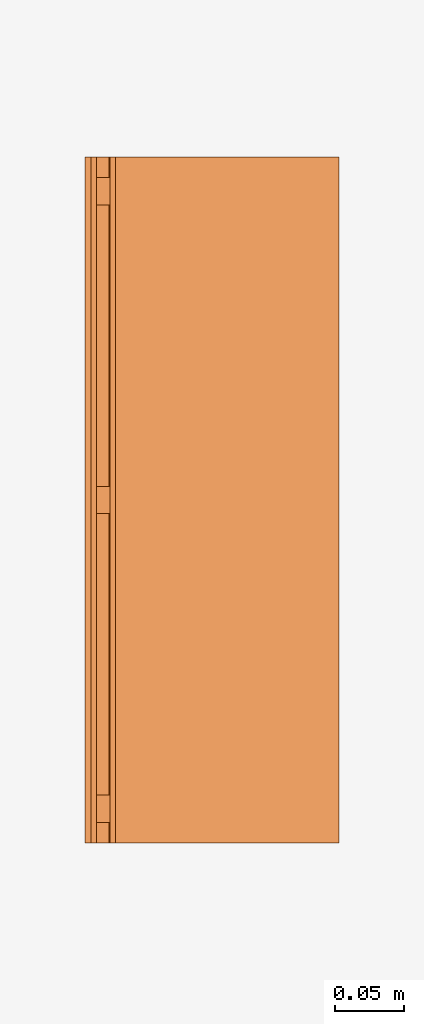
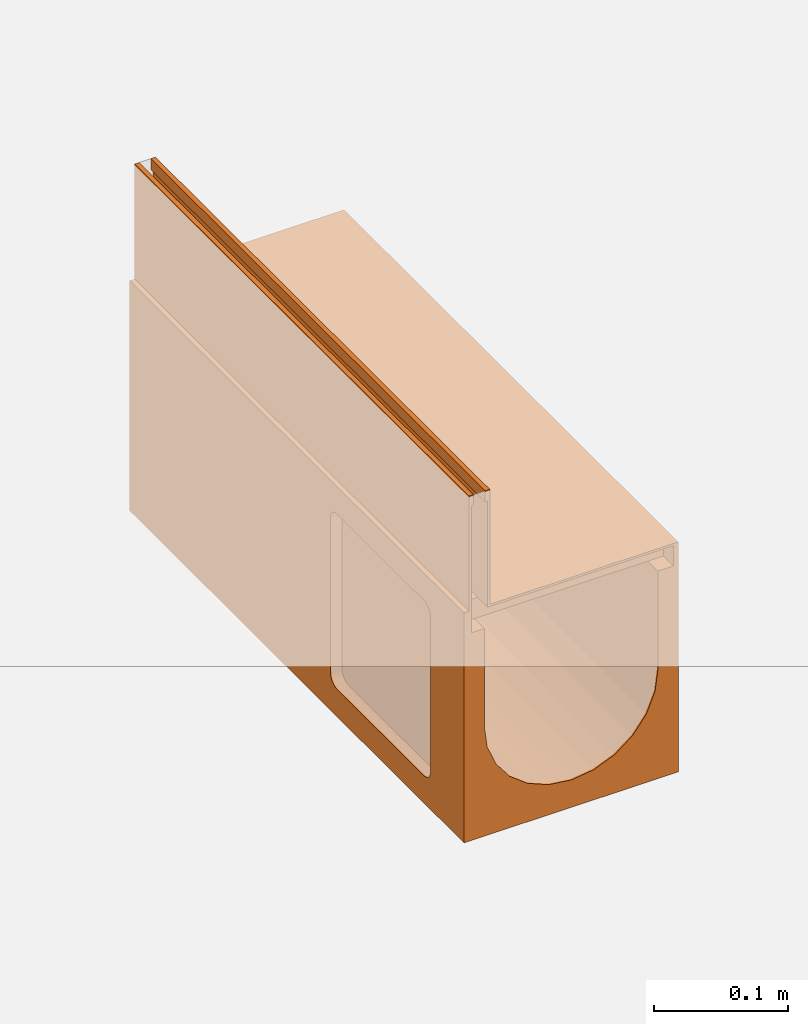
# One storey, part 2 of 2: 1 proxy.
"""IFC2X3 building model written with IfcOpenShell, lengths in millimetres."""

from ifc_helpers import new_model, entity, si_unit, converted_unit, direction, frame, origin, place, context, subcontext, project, spatial, faceted_brep, source, transform, mapped, material, material_list, element, save


model = new_model("IFC2X3")

# Units and contexts
model_context = context("Model", 3, precision=1e-06, world=origin(), true_north=direction((2.0, 6.12303176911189e-17, 1.0)))
context_of_model = context(None, 3, precision=1e-06, world=origin(), true_north=direction((2.0, 6.12303176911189e-17, 1.0)))
body_context = subcontext(model_context, "Body", "Model", "MODEL_VIEW")
ifc_project = project(units=[si_unit("LENGTHUNIT", "METRE", prefix="MILLI"), si_unit("AREAUNIT", "SQUARE_METRE", prefix="MILLI"), si_unit("VOLUMEUNIT", "CUBIC_METRE", prefix="MILLI"), converted_unit("PLANEANGLEUNIT", "DEGREE", entity("IfcRatioMeasure", 0.0174532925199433), si_unit("PLANEANGLEUNIT", "RADIAN"), dimensions=[0, 0, 0, 0, 0, 0, 0]), si_unit("TIMEUNIT", "SECOND")], contexts=[model_context, context_of_model])

# Site, building, storey
site_placement = place(None, origin())
site = spatial("IfcSite", under=ifc_project, at=site_placement, Name="Default", CompositionType="ELEMENT")
building_placement = place(site_placement, origin())
building = spatial("IfcBuilding", under=site, at=building_placement, CompositionType="ELEMENT")
storey_placement = place(building_placement, origin())
storey = spatial("IfcBuildingStorey", under=building, at=storey_placement, Name="Level 1", CompositionType="ELEMENT", Elevation=0.0)

# Proxy
ifc_material_1 = material(Name="Stainless Steel (F)")
ifc_material_2 = material(Name="Vienite® Synthetic Resin Concrete")
ifc_material_list = material_list([ifc_material_1, ifc_material_2])
shared_shape = source(origin(), body_context, "Body", "Brep", [
    faceted_brep([(88.2499999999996, 240.0, -107.0), (88.2499999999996, 242.0, -109.0), (88.2499999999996, 258.0, -109.0), (88.2499999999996, 260.0, -107.0), (88.2499999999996, 242.0, -123.499999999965), (88.2499999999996, 240.0, -125.499999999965), (88.2499999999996, 258.0, -123.499999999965), (88.2499999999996, 260.0, -125.499999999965), (-86.2500000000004, 240.0, -125.499999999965), (-86.2500000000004, 242.0, -123.499999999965), (-86.2500000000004, 258.0, -123.499999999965), (-86.2500000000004, 260.0, -125.499999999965), (-86.2500000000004, 242.0, -109.0), (-86.2500000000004, 240.0, -107.0), (-86.2500000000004, 258.0, -109.0), (-86.2500000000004, 260.0, -107.0)], [[[0, 1, 2, 3]], [[4, 1, 0, 5]], [[3, 2, 6, 7]], [[6, 4, 5, 7]], [[8, 9, 10, 11]], [[12, 9, 8, 13]], [[11, 10, 14, 15]], [[14, 12, 13, 15]], [[5, 0, 13, 8]], [[7, 5, 8, 11]], [[15, 3, 7, 11]], [[0, 3, 15, 13]], [[1, 4, 9, 12]], [[14, 2, 1, 12]], [[6, 2, 14, 10]], [[9, 4, 6, 10]]]),
    faceted_brep([(88.2500000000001, 465.0, -107.0), (88.2500000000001, 467.0, -109.0), (88.2500000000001, 483.0, -109.0), (88.2500000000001, 485.0, -107.0), (88.2500000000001, 467.0, -123.499999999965), (88.2500000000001, 465.0, -125.499999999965), (88.2500000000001, 483.0, -123.499999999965), (88.2500000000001, 485.0, -125.499999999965), (-86.2499999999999, 465.0, -125.499999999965), (-86.2499999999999, 467.0, -123.499999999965), (-86.2499999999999, 483.0, -123.499999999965), (-86.2499999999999, 485.0, -125.499999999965), (-86.2499999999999, 467.0, -109.0), (-86.2499999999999, 465.0, -107.0), (-86.2499999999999, 483.0, -109.0), (-86.2499999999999, 485.0, -107.0)], [[[0, 1, 2, 3]], [[4, 1, 0, 5]], [[3, 2, 6, 7]], [[6, 4, 5, 7]], [[8, 9, 10, 11]], [[12, 9, 8, 13]], [[11, 10, 14, 15]], [[14, 12, 13, 15]], [[5, 0, 13, 8]], [[7, 5, 8, 11]], [[3, 7, 11, 15]], [[0, 3, 15, 13]], [[1, 4, 9, 12]], [[14, 2, 1, 12]], [[6, 2, 14, 10]], [[9, 4, 6, 10]]]),
    faceted_brep([(-72.2500000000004, 0.0, -10.0), (-72.2500000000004, 0.0, -107.0), (-70.2500000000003, 0.0, -105.0), (-70.2500000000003, 0.0, 0.0), (-74.2500000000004, 0.0, 0.0), (-74.2500000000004, 0.0, -10.0), (88.2499999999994, 0.0, -107.0), (88.2499999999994, 0.0, -105.0), (-70.2500000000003, 500.0, -105.0), (88.2499999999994, 500.0, -105.0), (88.2499999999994, 500.0, -107.0), (-72.2500000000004, 500.0, -107.0), (-72.2500000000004, 500.0, -10.0), (-70.2500000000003, 500.0, 0.0), (-74.2500000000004, 500.0, -10.0), (-74.2500000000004, 500.0, 0.0)], [[[0, 1, 2, 3]], [[4, 5, 0, 3]], [[6, 7, 2, 1]], [[8, 9, 10, 11]], [[12, 13, 8, 11]], [[12, 14, 15, 13]], [[12, 0, 5, 14]], [[1, 0, 12, 11]], [[6, 1, 11, 10]], [[9, 7, 6, 10]], [[8, 2, 7, 9]], [[3, 2, 8, 13]], [[4, 3, 13, 15]], [[5, 4, 15, 14]]]),
    faceted_brep([(-84.2500000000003, 500.0, 0.0), (-84.2500000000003, 500.0, -10.0), (-86.2500000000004, 500.0, -10.0), (-88.2500000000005, 500.0, 0.0), (-88.2500000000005, 500.0, -125.499999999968), (-86.2500000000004, 500.0, -125.499999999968), (-86.2500000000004, 0.0, -10.0), (-88.2500000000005, 0.0, 0.0), (-88.2500000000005, 0.0, -125.499999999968), (-86.2500000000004, 0.0, -125.499999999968), (-84.2500000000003, 0.0, 0.0), (-84.2500000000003, 0.0, -10.0)], [[[0, 1, 2, 3]], [[4, 3, 2, 5]], [[6, 7, 8, 9]], [[10, 7, 6, 11]], [[5, 9, 8, 4]], [[6, 9, 5, 2]], [[1, 11, 6, 2]], [[10, 11, 1, 0]], [[7, 10, 0, 3]], [[4, 8, 7, 3]]]),
    faceted_brep([(88.2499999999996, 15.0, -107.0), (88.2499999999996, 17.0, -109.0), (88.2499999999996, 33.0, -109.0), (88.2499999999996, 35.0, -107.0), (88.2499999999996, 17.0, -123.499999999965), (88.2499999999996, 15.0, -125.499999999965), (88.2499999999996, 33.0, -123.499999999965), (88.2499999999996, 35.0, -125.499999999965), (-86.2500000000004, 15.0, -125.499999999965), (-86.2500000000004, 17.0, -123.499999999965), (-86.2500000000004, 33.0, -123.499999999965), (-86.2500000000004, 35.0, -125.499999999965), (-86.2500000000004, 17.0, -109.0), (-86.2500000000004, 15.0, -107.0), (-86.2500000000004, 33.0, -109.0), (-86.2500000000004, 35.0, -107.0)], [[[0, 1, 2, 3]], [[4, 1, 0, 5]], [[3, 2, 6, 7]], [[6, 4, 5, 7]], [[8, 9, 10, 11]], [[12, 9, 8, 13]], [[11, 10, 14, 15]], [[14, 12, 13, 15]], [[5, 0, 13, 8]], [[7, 5, 8, 11]], [[3, 7, 11, 15]], [[0, 3, 15, 13]], [[12, 1, 4, 9]], [[14, 2, 1, 12]], [[10, 6, 2, 14]], [[9, 4, 6, 10]]]),
    faceted_brep([(82.5000000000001, 55.0, -288.660254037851), (82.5000000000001, 57.411809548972, -289.659258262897), (82.5000000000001, 60.0, -290.0), (82.5000000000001, 51.3397459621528, -285.0), (82.5000000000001, 50.0, -280.0), (82.5000000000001, 50.3407417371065, -282.588190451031), (82.5000000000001, 52.9289321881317, -287.071067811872), (82.5000000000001, 200.0, -280.0), (82.5000000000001, 190.0, -290.0), (82.5000000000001, 192.588190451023, -289.659258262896), (82.5000000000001, 195.0, -288.66025403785), (82.5000000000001, 197.071067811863, -287.071067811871), (82.5000000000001, 198.660254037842, -285.0), (82.5000000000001, 199.659258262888, -282.588190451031), (82.5000000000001, 200.0, -140.0), (82.5000000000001, 50.0, -140.0), (82.5000000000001, 50.3407417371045, -137.411809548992), (82.5000000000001, 60.0, -130.0), (82.5000000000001, 51.3397459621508, -135.0), (82.5000000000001, 55.0, -131.339745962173), (82.5000000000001, 52.9289321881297, -132.928932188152), (82.5000000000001, 57.4118095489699, -130.340741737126), (82.5000000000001, 190.0, -130.0), (82.5000000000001, 199.65925826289, -137.411809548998), (82.5000000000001, 198.660254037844, -135.0), (82.5000000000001, 195.0, -131.339745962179), (82.5000000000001, 192.588190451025, -130.340741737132), (82.5000000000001, 197.071067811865, -132.928932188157), (92.5, 50.0, -140.0), (92.5000000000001, 50.0, -280.0), (92.5, 190.0, -130.0), (92.5000000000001, 60.0, -130.0), (92.4999999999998, 200.0, -280.0), (92.5000000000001, 200.0, -140.0), (92.4999999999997, 60.0, -290.0), (92.5000000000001, 190.0, -290.0), (88.25, 500.0, -125.500000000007), (88.2500000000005, 500.0, -105.0), (92.5, 500.0, -105.0), (92.4999999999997, 500.0, -315.0), (75.0, 500.0, -215.0), (75.0, 500.0, -125.500000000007), (72.44443697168, 500.0, -234.411428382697), (-92.5, 500.0, -105.0), (-88.25, 500.0, -105.0), (-88.25, 500.0, -125.500000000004), (-92.5, 500.0, -315.0), (-75.0, 500.0, -125.500000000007), (-75.0, 500.0, -215.0), (53.033008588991, 500.0, -268.033008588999), (64.9519052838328, 500.0, -252.500000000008), (37.5, 500.0, -279.951905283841), (0.0, 500.0, -290.0), (19.4114283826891, 500.0, -287.444436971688), (-64.9519052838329, 500.0, -252.500000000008), (-53.033008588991, 500.0, -268.033008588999), (-72.4444369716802, 500.0, -234.411428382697), (-37.4999999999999, 500.0, -279.951905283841), (-19.4114283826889, 500.0, -287.444436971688), (92.4999999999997, 0.0, -315.0), (19.4114283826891, 0.0, -287.444436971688), (0.0, 0.0, -290.0), (37.5, 0.0, -279.951905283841), (53.033008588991, 0.0, -268.033008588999), (64.9519052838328, 0.0, -252.500000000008), (72.44443697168, 0.0, -234.411428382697), (-19.4114283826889, 0.0, -287.444436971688), (-92.5, 0.0, -315.0), (-37.4999999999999, 0.0, -279.951905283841), (-53.033008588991, 0.0, -268.033008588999), (-64.9519052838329, 0.0, -252.500000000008), (-72.4444369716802, 0.0, -234.411428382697), (75.0, 0.0, -215.0), (88.25, 0.0, -125.500000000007), (75.0, 0.0, -125.500000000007), (92.5, 0.0, -105.0), (88.2500000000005, 0.0, -105.0), (-75.0, 0.0, -215.0), (-75.0, 0.0, -125.500000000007), (-88.25, 0.0, -125.500000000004), (-88.25, 0.0, -105.0), (-92.5, 0.0, -105.0), (-92.5, 51.339745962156, -135.0), (-92.5, 50.3407417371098, -137.411809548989), (-92.5, 52.928932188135, -132.928932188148), (-92.5, 50.0, -140.0), (-92.5, 50.0, -280.0), (-92.5, 60.0, -130.0), (-92.5, 57.4118095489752, -130.340741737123), (-92.5, 55.0, -131.339745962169), (-92.5, 190.0, -130.0), (-92.5, 50.3407417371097, -282.588190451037), (-92.5, 51.3397459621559, -285.0), (-92.5, 52.9289321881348, -287.071067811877), (-92.5, 55.0, -288.660254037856), (-92.5, 57.4118095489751, -289.659258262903), (-92.5, 60.0, -290.0), (-92.5, 190.0, -290.0), (-92.5, 192.588190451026, -130.340741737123), (-92.5, 197.071067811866, -132.928932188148), (-92.5, 195.0, -131.339745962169), (-92.5, 198.660254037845, -135.0), (-92.5, 199.659258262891, -137.411809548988), (-92.5, 200.0, -140.0), (-92.5, 195.0, -288.660254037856), (-92.5, 197.071067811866, -287.071067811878), (-92.5, 192.588190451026, -289.659258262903), (-92.5, 199.659258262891, -282.588190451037), (-92.5, 200.0, -280.0), (-92.5, 198.660254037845, -285.0), (-20.7055236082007, 47.7259338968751, -315.0), (0.0, 45.0, -315.0), (-40.0, 55.7179676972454, -315.0), (-77.2740661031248, 104.294476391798, -315.0), (-69.2820323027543, 85.0, -315.0), (-56.5685424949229, 68.4314575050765, -315.0), (-80.0, 125.0, -315.0), (20.7055236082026, 47.7259338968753, -315.0), (40.0, 55.7179676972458, -315.0), (56.5685424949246, 68.4314575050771, -315.0), (69.2820323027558, 85.0, -315.0), (77.2740661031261, 104.294476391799, -315.0), (80.0, 125.0, -315.0), (-77.2740661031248, 145.705523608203, -315.0), (-69.2820323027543, 165.0, -315.0), (-56.5685424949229, 181.568542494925, -315.0), (-40.0, 194.282032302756, -315.0), (-20.7055236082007, 202.274066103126, -315.0), (0.0, 205.0, -315.0), (69.2820323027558, 165.0, -315.0), (56.5685424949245, 181.568542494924, -315.0), (77.2740661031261, 145.705523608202, -315.0), (20.7055236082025, 202.274066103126, -315.0), (40.0, 194.282032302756, -315.0), (92.4999999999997, 51.3397459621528, -285.0), (92.4999999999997, 50.3407417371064, -282.588190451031), (92.4999999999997, 52.9289321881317, -287.071067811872), (92.4999999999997, 57.411809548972, -289.659258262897), (92.4999999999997, 55.0, -288.660254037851), (92.5, 50.3407417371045, -137.411809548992), (92.5, 51.3397459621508, -135.0), (92.5, 52.9289321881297, -132.928932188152), (92.5, 55.0, -131.339745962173), (92.5, 57.4118095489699, -130.340741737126), (92.4999999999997, 192.588190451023, -289.659258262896), (92.4999999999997, 197.071067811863, -287.071067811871), (92.4999999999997, 195.0, -288.66025403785), (92.4999999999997, 198.660254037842, -285.0), (92.4999999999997, 199.659258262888, -282.588190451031), (92.5, 195.0, -131.339745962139), (92.5, 197.071067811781, -132.928932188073), (92.5, 192.588190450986, -130.340741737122), (92.5, 199.659258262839, -137.411809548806), (92.5, 198.660254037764, -135.0), (-82.5, 199.659258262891, -137.411809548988), (-82.5, 200.0, -140.0), (-82.5, 190.0, -130.0), (-82.5, 198.660254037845, -135.0), (-82.5, 197.071067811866, -132.928932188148), (-82.5, 192.588190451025, -130.340741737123), (-82.5, 195.0, -131.339745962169), (-82.5, 200.0, -280.0), (-82.5, 50.0, -140.0), (-82.5, 199.659258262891, -282.588190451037), (-82.5, 198.660254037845, -285.0), (-82.5, 192.588190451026, -289.659258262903), (-82.5, 197.071067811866, -287.071067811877), (-82.5, 195.0, -288.660254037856), (-82.5, 190.0, -290.0), (-82.5, 50.0, -280.0), (-82.5, 57.4118095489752, -130.340741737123), (-82.5, 60.0, -130.0), (-82.5, 55.0, -131.339745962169), (-82.5, 50.3407417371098, -137.411809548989), (-82.5, 51.339745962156, -135.0), (-82.5, 52.928932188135, -132.928932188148), (-82.5, 60.0, -290.0), (-82.5, 57.4118095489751, -289.659258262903), (-82.5, 55.0, -288.660254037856), (-82.5, 51.339745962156, -285.0), (-82.5, 50.3407417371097, -282.588190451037), (-82.5, 52.9289321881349, -287.071067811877), (-56.5685424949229, 181.568542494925, -305.0), (-40.0, 194.282032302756, -305.0), (-20.7055236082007, 202.274066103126, -305.0), (-69.2820323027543, 165.0, -305.0), (-80.0, 125.0, -305.0), (-77.2740661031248, 145.705523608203, -305.0), (56.5685424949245, 181.568542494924, -305.0), (80.0, 125.0, -305.0), (20.7055236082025, 202.274066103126, -305.0), (40.0, 194.282032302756, -305.0), (0.0, 205.0, -305.0), (69.2820323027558, 165.0, -305.0), (77.2740661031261, 145.705523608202, -305.0), (-56.5685424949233, 68.4314575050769, -305.0), (0.0, 45.0, -305.0), (-69.2820323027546, 85.0, -305.0), (-77.2740661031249, 104.294476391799, -305.0), (-20.7055236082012, 47.7259338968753, -305.0), (-40.0, 55.7179676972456, -305.0), (40.0, 55.7179676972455, -305.0), (20.7055236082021, 47.7259338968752, -305.0), (77.2740661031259, 104.294476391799, -305.0), (69.2820323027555, 85.0, -305.0), (56.5685424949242, 68.4314575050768, -305.0)], [[[0, 1, 2, 3]], [[2, 4, 5, 3]], [[3, 6, 0]], [[7, 4, 2, 8]], [[8, 9, 10, 7]], [[7, 11, 12, 13]], [[7, 10, 11]], [[4, 7, 14, 15]], [[16, 15, 17, 18]], [[19, 20, 17, 21]], [[18, 17, 20]], [[22, 17, 15, 14]], [[14, 23, 24, 22]], [[25, 26, 24, 27]], [[22, 24, 26]], [[4, 15, 28, 29]], [[17, 22, 30, 31]], [[14, 7, 32, 33]], [[8, 2, 34, 35]], [[36, 37, 38, 39]], [[40, 41, 36, 39]], [[40, 39, 42]], [[43, 44, 45, 46]], [[45, 47, 48, 46]], [[49, 50, 39]], [[51, 49, 39]], [[52, 53, 39, 46]], [[39, 53, 51]], [[50, 42, 39]], [[54, 55, 46]], [[56, 54, 46]], [[57, 58, 46]], [[46, 58, 52]], [[57, 46, 55]], [[56, 46, 48]], [[59, 60, 61]], [[60, 59, 62]], [[63, 62, 59]], [[64, 63, 59]], [[59, 65, 64]], [[61, 66, 67, 59]], [[67, 66, 68]], [[69, 70, 67]], [[68, 69, 67]], [[67, 70, 71]], [[65, 59, 72]], [[73, 74, 72, 59]], [[75, 76, 73, 59]], [[77, 78, 79, 67]], [[79, 80, 81, 67]], [[77, 67, 71]], [[44, 80, 79, 45]], [[81, 80, 44, 43]], [[81, 82, 83]], [[82, 81, 84]], [[83, 85, 81]], [[81, 85, 86]], [[87, 88, 81]], [[89, 84, 81]], [[88, 89, 81]], [[90, 87, 81, 43]], [[86, 91, 67, 81]], [[67, 92, 93]], [[92, 67, 91]], [[93, 94, 67]], [[95, 96, 67]], [[94, 95, 67]], [[67, 96, 97]], [[98, 90, 43]], [[99, 100, 43]], [[98, 43, 100]], [[101, 43, 102]], [[43, 101, 99]], [[103, 102, 43, 46]], [[104, 105, 46]], [[97, 106, 46, 67]], [[104, 46, 106]], [[107, 108, 46]], [[109, 46, 105]], [[46, 109, 107]], [[108, 103, 46]], [[67, 110, 111, 59]], [[110, 67, 112]], [[113, 114, 67]], [[115, 112, 67]], [[114, 115, 67]], [[67, 116, 113]], [[59, 117, 118]], [[117, 59, 111]], [[59, 118, 119]], [[119, 120, 59]], [[121, 122, 59]], [[120, 121, 59]], [[59, 122, 39]], [[123, 116, 46]], [[124, 123, 46]], [[125, 46, 126]], [[46, 125, 124]], [[127, 126, 46]], [[128, 127, 46, 39]], [[116, 67, 46]], [[129, 130, 39]], [[131, 129, 39]], [[132, 128, 39]], [[133, 39, 130]], [[39, 133, 132]], [[131, 39, 122]], [[59, 134, 135]], [[134, 59, 136]], [[135, 29, 59]], [[59, 29, 28]], [[34, 137, 59]], [[138, 136, 59]], [[137, 138, 59]], [[35, 34, 59, 39]], [[28, 139, 75, 59]], [[75, 140, 141]], [[140, 75, 139]], [[141, 142, 75]], [[143, 31, 75]], [[142, 143, 75]], [[75, 31, 30]], [[144, 35, 39]], [[145, 146, 39]], [[144, 39, 146]], [[147, 39, 148]], [[39, 147, 145]], [[32, 148, 39, 38]], [[149, 150, 38]], [[30, 151, 38, 75]], [[149, 38, 151]], [[152, 33, 38]], [[153, 38, 150]], [[38, 153, 152]], [[33, 32, 38]], [[76, 75, 38, 37]], [[73, 76, 37, 36]], [[41, 74, 73, 36]], [[40, 72, 74, 41]], [[47, 78, 77, 48]], [[45, 79, 78, 47]], [[50, 64, 65, 42]], [[42, 65, 72, 40]], [[51, 62, 63, 49]], [[49, 63, 64, 50]], [[53, 60, 62, 51]], [[60, 53, 52, 61]], [[57, 68, 66, 58]], [[55, 69, 68, 57]], [[56, 71, 70, 54]], [[54, 70, 69, 55]], [[48, 77, 71, 56]], [[58, 66, 61, 52]], [[154, 155, 156, 157]], [[158, 156, 159, 160]], [[158, 157, 156]], [[155, 161, 162, 156]], [[161, 163, 164, 165]], [[166, 167, 165, 164]], [[161, 165, 168, 169]], [[170, 171, 162, 172]], [[173, 174, 175, 172]], [[173, 172, 162]], [[162, 161, 169]], [[176, 177, 178, 169]], [[179, 180, 169, 181]], [[178, 181, 169]], [[176, 169, 168]], [[171, 156, 162]], [[85, 162, 169, 86]], [[90, 156, 171, 87]], [[108, 161, 155, 103]], [[96, 176, 168, 97]], [[180, 91, 86, 169]], [[179, 92, 91, 180]], [[92, 179, 181, 93]], [[178, 94, 93, 181]], [[177, 95, 94, 178]], [[95, 177, 176, 96]], [[165, 106, 97, 168]], [[167, 104, 106, 165]], [[104, 167, 166, 105]], [[164, 109, 105, 166]], [[163, 107, 109, 164]], [[107, 163, 161, 108]], [[154, 102, 103, 155]], [[157, 101, 102, 154]], [[101, 157, 158, 99]], [[160, 100, 99, 158]], [[159, 98, 100, 160]], [[98, 159, 156, 90]], [[170, 88, 87, 171]], [[172, 89, 88, 170]], [[89, 172, 175, 84]], [[174, 82, 84, 175]], [[173, 83, 82, 174]], [[83, 173, 162, 85]], [[16, 139, 28, 15]], [[18, 140, 139, 16]], [[140, 18, 20, 141]], [[19, 142, 141, 20]], [[21, 143, 142, 19]], [[143, 21, 17, 31]], [[26, 151, 30, 22]], [[25, 149, 151, 26]], [[149, 25, 27, 150]], [[24, 153, 150, 27]], [[23, 152, 153, 24]], [[152, 23, 14, 33]], [[13, 148, 32, 7]], [[12, 147, 148, 13]], [[147, 12, 11, 145]], [[10, 146, 145, 11]], [[9, 144, 146, 10]], [[144, 9, 8, 35]], [[1, 137, 34, 2]], [[0, 138, 137, 1]], [[138, 0, 6, 136]], [[3, 134, 136, 6]], [[5, 135, 134, 3]], [[135, 5, 4, 29]], [[182, 183, 184, 185]], [[186, 187, 185, 184]], [[188, 189, 184, 190]], [[191, 188, 190]], [[184, 192, 190]], [[188, 193, 194, 189]], [[195, 186, 184, 196]], [[195, 197, 198, 186]], [[195, 196, 199, 200]], [[196, 184, 201, 202]], [[203, 204, 205, 189]], [[189, 205, 201, 184]], [[194, 131, 122, 189]], [[193, 129, 131, 194]], [[191, 133, 130, 188]], [[188, 130, 129, 193]], [[190, 132, 133, 191]], [[132, 190, 192, 128]], [[184, 127, 128, 192]], [[183, 126, 127, 184]], [[185, 124, 125, 182]], [[182, 125, 126, 183]], [[187, 123, 124, 185]], [[123, 187, 186, 116]], [[198, 113, 116, 186]], [[197, 114, 113, 198]], [[200, 112, 115, 195]], [[195, 115, 114, 197]], [[199, 110, 112, 200]], [[110, 199, 196, 111]], [[202, 117, 111, 196]], [[201, 118, 117, 202]], [[204, 120, 119, 205]], [[205, 119, 118, 201]], [[203, 121, 120, 204]], [[203, 189, 122, 121]]]),
])
proxy_placement = place(storey_placement, frame((0.0, -230.0, 0.0)))
element("IfcBuildingElementProxy", 1, at=proxy_placement, inside=storey, material=ifc_material_list, Name="Civil-Drainage-Channel-ACO-MultiDrain-M150DS-Brickslot-Channel-System:24153 - No 0.1J Constant Depth Channel - 500mm LG - Invert Depth 185mm:24153 - No 0.1J Constant Depth Channel - 500mm LG - Invert Depth 185mm", ObjectType="24153 - No 0.1J Constant Depth Channel - 500mm LG - Invert Depth 185mm", CompositionType="ELEMENT", context=body_context, shape_type="MappedRepresentation", body=[
    mapped(shared_shape, transform((0.0, 0.0, 0.0), scale=1.0)),
])

save(model, "model.ifc")
